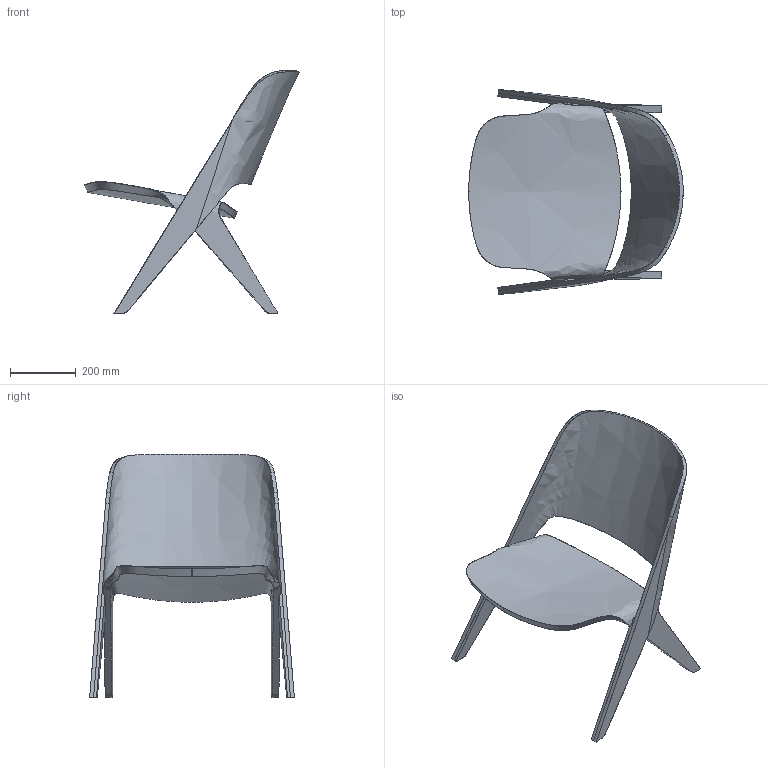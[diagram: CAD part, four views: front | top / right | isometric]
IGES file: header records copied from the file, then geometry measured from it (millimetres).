
Start section: Lavitta lounge levennetty V2V2..SLDPRT - CatalogComponentType Lavitta lounge levennetty V2V2..SLDPRT - PrototypeComponentType Lavitta lounge levennetty V2V2..SLDPRT - PrototypeComponentType
Global section: file name: G:\My Drive\POIAT products\Tuotekehitys\POIAT (ajantasa) tuotteet mallikansio\Lavitta Lounge\3D\Lavitta Lounge\Lavitta Lounge.igs; native system: Rhinoceros ( May 22 2017 ); preprocessor: Trout Lake IGES 012 May 22 2017; date: 200610.085536; units: millimetre
Bounding box: 654.02 x 624.53 x 741.96 mm (x, y, z)
Surface area: 1329535.2 mm2 (no closed solid volume)
Topology: 0 solids, 0 shells, 127 faces, 8409 edges, 8409 vertices
Faces by surface type: bspline 127
